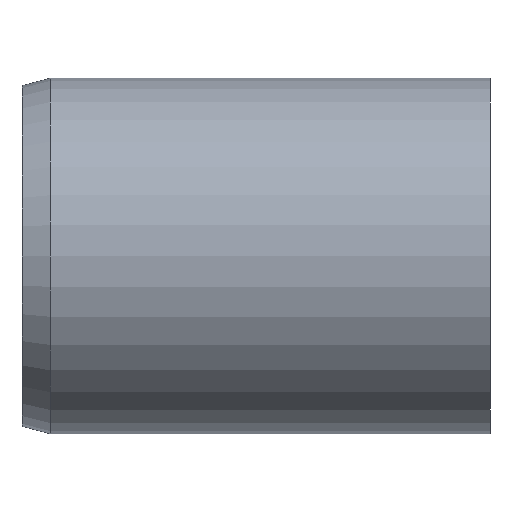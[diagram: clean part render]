
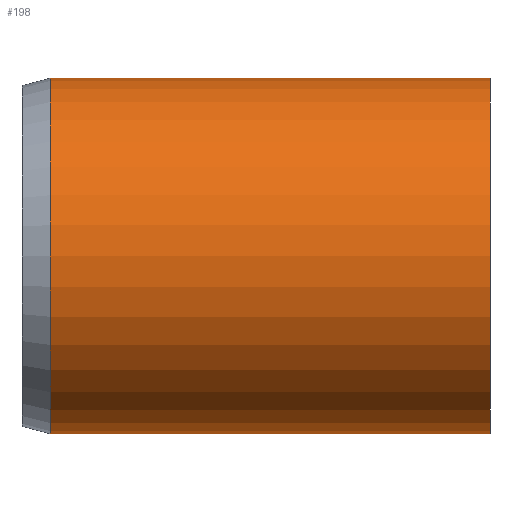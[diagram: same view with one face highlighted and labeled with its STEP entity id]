
A CAD part, left-side view. The second image highlights one B-rep face of the part: STEP entity #198.
In plain terms, the highlighted cylindrical face has radius 19 mm (diameter 38 mm), a partial arc.
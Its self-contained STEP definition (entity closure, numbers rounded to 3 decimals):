
#10 = CARTESIAN_POINT ( 'NONE',  ( 0., 0., -19. ) ) ;
#32 = CARTESIAN_POINT ( 'NONE',  ( 0., 47., -19. ) ) ;
#37 = DIRECTION ( 'NONE',  ( 0., 0., -1. ) ) ;
#40 = ORIENTED_EDGE ( 'NONE', *, *, #309, .T. ) ;
#45 = CARTESIAN_POINT ( 'NONE',  ( 0., 0., 19. ) ) ;
#46 = CARTESIAN_POINT ( 'NONE',  ( 0., 0., 19. ) ) ;
#47 = EDGE_CURVE ( 'NONE', #111, #331, #147, .T. ) ;
#48 = AXIS2_PLACEMENT_3D ( 'NONE', #350, #112, #194 ) ;
#70 = EDGE_CURVE ( 'NONE', #256, #331, #336, .T. ) ;
#76 = CARTESIAN_POINT ( 'NONE',  ( 0., 0., 0. ) ) ;
#95 = CIRCLE ( 'NONE', #48, 19. ) ;
#101 = CARTESIAN_POINT ( 'NONE',  ( 0., 0., 0. ) ) ;
#105 = CARTESIAN_POINT ( 'NONE',  ( 0., 47., 19. ) ) ;
#111 = VERTEX_POINT ( 'NONE', #32 ) ;
#112 = DIRECTION ( 'NONE',  ( 0., -1., 0. ) ) ;
#118 = EDGE_LOOP ( 'NONE', ( #146, #40, #258, #190 ) ) ;
#130 = DIRECTION ( 'NONE',  ( 0., -1., 0. ) ) ;
#146 = ORIENTED_EDGE ( 'NONE', *, *, #178, .F. ) ;
#147 = LINE ( 'NONE', #10, #236 ) ;
#166 = DIRECTION ( 'NONE',  ( 0., -1., 0. ) ) ;
#176 = AXIS2_PLACEMENT_3D ( 'NONE', #101, #130, #37 ) ;
#178 = EDGE_CURVE ( 'NONE', #334, #256, #367, .T. ) ;
#190 = ORIENTED_EDGE ( 'NONE', *, *, #70, .F. ) ;
#192 = DIRECTION ( 'NONE',  ( 0., -1., 0. ) ) ;
#194 = DIRECTION ( 'NONE',  ( 0., 0., -1. ) ) ;
#195 = AXIS2_PLACEMENT_3D ( 'NONE', #76, #166, #225 ) ;
#198 = ADVANCED_FACE ( 'NONE', ( #209 ), #361, .T. ) ;
#209 = FACE_OUTER_BOUND ( 'NONE', #118, .T. ) ;
#225 = DIRECTION ( 'NONE',  ( 0., 0., -1. ) ) ;
#234 = VECTOR ( 'NONE', #249, 1000. ) ;
#236 = VECTOR ( 'NONE', #192, 1000. ) ;
#249 = DIRECTION ( 'NONE',  ( 0., -1., 0. ) ) ;
#256 = VERTEX_POINT ( 'NONE', #45 ) ;
#258 = ORIENTED_EDGE ( 'NONE', *, *, #47, .T. ) ;
#274 = CARTESIAN_POINT ( 'NONE',  ( 0., 0., -19. ) ) ;
#309 = EDGE_CURVE ( 'NONE', #334, #111, #95, .T. ) ;
#331 = VERTEX_POINT ( 'NONE', #274 ) ;
#334 = VERTEX_POINT ( 'NONE', #105 ) ;
#336 = CIRCLE ( 'NONE', #176, 19. ) ;
#350 = CARTESIAN_POINT ( 'NONE',  ( 0., 47., 0. ) ) ;
#361 = CYLINDRICAL_SURFACE ( 'NONE', #195, 19. ) ;
#367 = LINE ( 'NONE', #46, #234 ) ;
